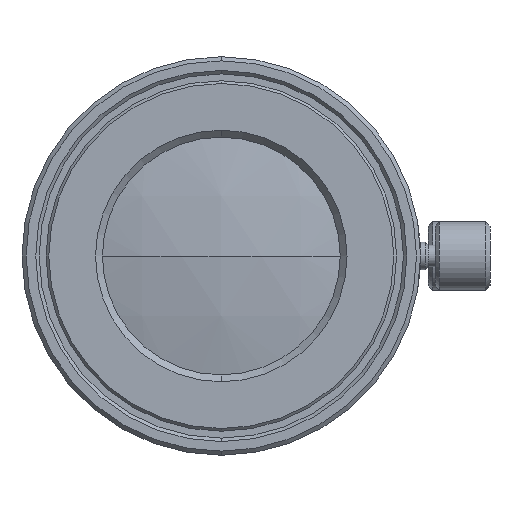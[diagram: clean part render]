
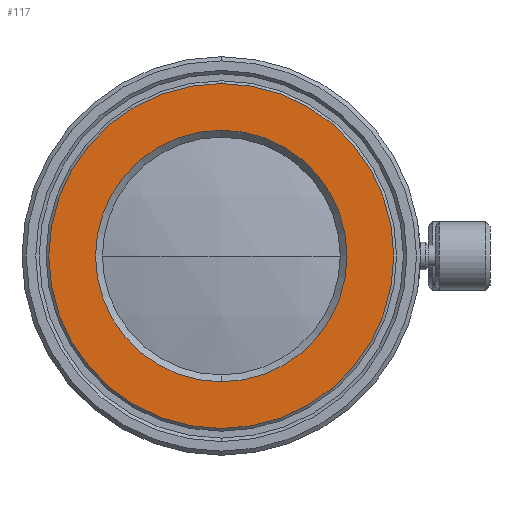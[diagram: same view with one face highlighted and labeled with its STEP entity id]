
A CAD part, left-side view. The second image highlights one B-rep face of the part: STEP entity #117.
In plain terms, the highlighted planar face has unit normal (-1, 0, 0).
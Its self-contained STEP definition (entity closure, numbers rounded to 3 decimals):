
#117 = ADVANCED_FACE ( 'NONE', ( #3290, #1044 ), #416, .F. ) ;
#139 = DIRECTION ( 'NONE',  ( 1., 0., 0. ) ) ;
#159 = VERTEX_POINT ( 'NONE', #1238 ) ;
#284 = ORIENTED_EDGE ( 'NONE', *, *, #475, .T. ) ;
#416 = PLANE ( 'NONE',  #3486 ) ;
#431 = CARTESIAN_POINT ( 'NONE',  ( -52.745, 12.55, 0. ) ) ;
#475 = EDGE_CURVE ( 'NONE', #1707, #159, #637, .T. ) ;
#637 = CIRCLE ( 'NONE', #1552, 12.55 ) ;
#660 = CIRCLE ( 'NONE', #2771, 12.55 ) ;
#685 = DIRECTION ( 'NONE',  ( -1., 0., 0. ) ) ;
#768 = CARTESIAN_POINT ( 'NONE',  ( -52.745, 0., -12.55 ) ) ;
#1023 = EDGE_CURVE ( 'NONE', #159, #1707, #660, .T. ) ;
#1044 = FACE_OUTER_BOUND ( 'NONE', #2861, .T. ) ;
#1120 = ORIENTED_EDGE ( 'NONE', *, *, #1023, .T. ) ;
#1238 = CARTESIAN_POINT ( 'NONE',  ( -52.745, 0., 12.55 ) ) ;
#1413 = AXIS2_PLACEMENT_3D ( 'NONE', #3175, #1483, #3461 ) ;
#1465 = EDGE_CURVE ( 'NONE', #3160, #3475, #2083, .T. ) ;
#1483 = DIRECTION ( 'NONE',  ( -1., 0., 0. ) ) ;
#1500 = CARTESIAN_POINT ( 'NONE',  ( -52.745, 0., 9.15 ) ) ;
#1552 = AXIS2_PLACEMENT_3D ( 'NONE', #3465, #3444, #3427 ) ;
#1707 = VERTEX_POINT ( 'NONE', #768 ) ;
#1820 = DIRECTION ( 'NONE',  ( 0., 0., -1. ) ) ;
#2083 = CIRCLE ( 'NONE', #3385, 9.15 ) ;
#2146 = CARTESIAN_POINT ( 'NONE',  ( -52.745, 0., -9.15 ) ) ;
#2771 = AXIS2_PLACEMENT_3D ( 'NONE', #3578, #3566, #3510 ) ;
#2861 = EDGE_LOOP ( 'NONE', ( #284, #1120 ) ) ;
#3009 = ORIENTED_EDGE ( 'NONE', *, *, #3430, .F. ) ;
#3092 = ORIENTED_EDGE ( 'NONE', *, *, #1465, .F. ) ;
#3160 = VERTEX_POINT ( 'NONE', #2146 ) ;
#3175 = CARTESIAN_POINT ( 'NONE',  ( -52.745, 0., 0. ) ) ;
#3273 = DIRECTION ( 'NONE',  ( 0., 0., 1. ) ) ;
#3290 = FACE_BOUND ( 'NONE', #3436, .T. ) ;
#3385 = AXIS2_PLACEMENT_3D ( 'NONE', #3485, #685, #3273 ) ;
#3420 = CIRCLE ( 'NONE', #1413, 9.15 ) ;
#3427 = DIRECTION ( 'NONE',  ( 0., 0., 1. ) ) ;
#3430 = EDGE_CURVE ( 'NONE', #3475, #3160, #3420, .T. ) ;
#3436 = EDGE_LOOP ( 'NONE', ( #3009, #3092 ) ) ;
#3444 = DIRECTION ( 'NONE',  ( -1., 0., 0. ) ) ;
#3461 = DIRECTION ( 'NONE',  ( 0., 0., 1. ) ) ;
#3465 = CARTESIAN_POINT ( 'NONE',  ( -52.745, 0., 0. ) ) ;
#3475 = VERTEX_POINT ( 'NONE', #1500 ) ;
#3485 = CARTESIAN_POINT ( 'NONE',  ( -52.745, 0., 0. ) ) ;
#3486 = AXIS2_PLACEMENT_3D ( 'NONE', #431, #139, #1820 ) ;
#3510 = DIRECTION ( 'NONE',  ( 0., 0., 1. ) ) ;
#3566 = DIRECTION ( 'NONE',  ( -1., 0., 0. ) ) ;
#3578 = CARTESIAN_POINT ( 'NONE',  ( -52.745, 0., 0. ) ) ;
